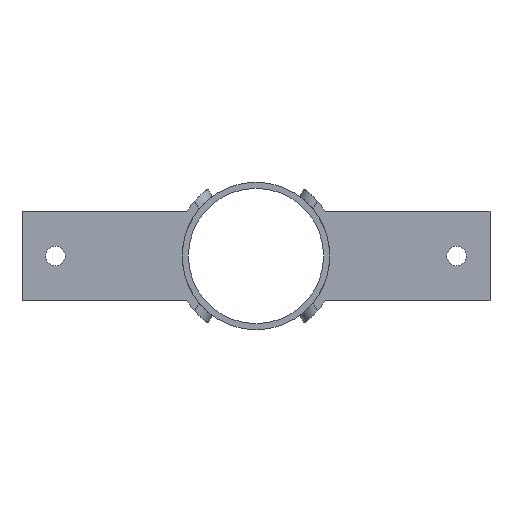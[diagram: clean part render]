
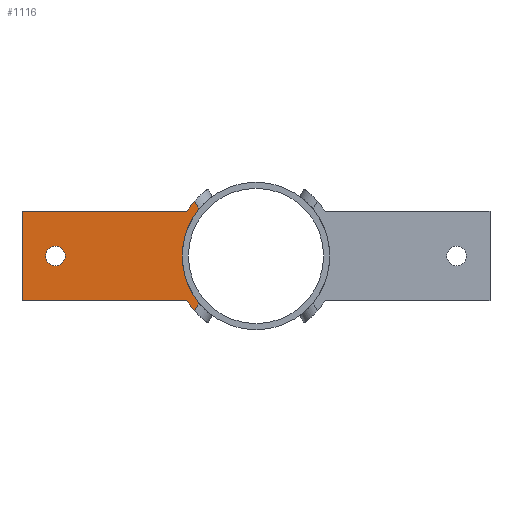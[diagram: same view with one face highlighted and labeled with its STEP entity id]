
A CAD part, front view. The second image highlights one B-rep face of the part: STEP entity #1116.
In plain terms, the highlighted planar face has unit normal (0, -1, 0).
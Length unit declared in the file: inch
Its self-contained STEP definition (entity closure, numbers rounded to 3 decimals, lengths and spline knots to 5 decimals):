
#45=FACE_BOUND('',#197,.T.);
#57=PLANE('',#1194);
#90=CIRCLE('',#1190,3.6925);
#92=CIRCLE('',#1195,3.3125);
#93=CIRCLE('',#1196,3.3125);
#94=CIRCLE('',#1197,3.6925);
#95=CIRCLE('',#1198,0.4375);
#140=FACE_OUTER_BOUND('',#196,.T.);
#196=EDGE_LOOP('',(#740,#741,#742,#743,#744,#745,#746,#747,#748));
#197=EDGE_LOOP('',(#749));
#265=LINE('',#1723,#358);
#266=LINE('',#1730,#359);
#267=LINE('',#1734,#360);
#268=LINE('',#1736,#361);
#269=LINE('',#1737,#362);
#358=VECTOR('',#1323,0.3937);
#359=VECTOR('',#1330,0.3937);
#360=VECTOR('',#1333,0.3937);
#361=VECTOR('',#1334,0.3937);
#362=VECTOR('',#1335,0.3937);
#466=VERTEX_POINT('',#1675);
#467=VERTEX_POINT('',#1694);
#470=VERTEX_POINT('',#1704);
#471=VERTEX_POINT('',#1725);
#472=VERTEX_POINT('',#1727);
#473=VERTEX_POINT('',#1729);
#474=VERTEX_POINT('',#1731);
#475=VERTEX_POINT('',#1733);
#476=VERTEX_POINT('',#1735);
#477=VERTEX_POINT('',#1738);
#573=EDGE_CURVE('',#466,#467,#90,.T.);
#579=EDGE_CURVE('',#470,#466,#265,.T.);
#580=EDGE_CURVE('',#471,#470,#92,.T.);
#581=EDGE_CURVE('',#472,#471,#93,.T.);
#582=EDGE_CURVE('',#473,#472,#266,.T.);
#583=EDGE_CURVE('',#474,#473,#94,.T.);
#584=EDGE_CURVE('',#474,#475,#267,.T.);
#585=EDGE_CURVE('',#475,#476,#268,.T.);
#586=EDGE_CURVE('',#476,#467,#269,.T.);
#587=EDGE_CURVE('',#477,#477,#95,.T.);
#740=ORIENTED_EDGE('',*,*,#579,.F.);
#741=ORIENTED_EDGE('',*,*,#580,.F.);
#742=ORIENTED_EDGE('',*,*,#581,.F.);
#743=ORIENTED_EDGE('',*,*,#582,.F.);
#744=ORIENTED_EDGE('',*,*,#583,.F.);
#745=ORIENTED_EDGE('',*,*,#584,.T.);
#746=ORIENTED_EDGE('',*,*,#585,.T.);
#747=ORIENTED_EDGE('',*,*,#586,.T.);
#748=ORIENTED_EDGE('',*,*,#573,.F.);
#749=ORIENTED_EDGE('',*,*,#587,.T.);
#1116=ADVANCED_FACE('',(#140,#45),#57,.F.);
#1190=AXIS2_PLACEMENT_3D('',#1695,#1312,#1313);
#1194=AXIS2_PLACEMENT_3D('',#1724,#1324,#1325);
#1195=AXIS2_PLACEMENT_3D('',#1726,#1326,#1327);
#1196=AXIS2_PLACEMENT_3D('',#1728,#1328,#1329);
#1197=AXIS2_PLACEMENT_3D('',#1732,#1331,#1332);
#1198=AXIS2_PLACEMENT_3D('',#1739,#1336,#1337);
#1312=DIRECTION('center_axis',(0.,1.,0.));
#1313=DIRECTION('ref_axis',(-0.583,0.,0.812));
#1323=DIRECTION('',(-0.5,0.,-0.866));
#1324=DIRECTION('center_axis',(0.,1.,0.));
#1325=DIRECTION('ref_axis',(0.,0.,1.));
#1326=DIRECTION('center_axis',(0.,-1.,0.));
#1327=DIRECTION('ref_axis',(1.,0.,0.));
#1328=DIRECTION('center_axis',(0.,-1.,0.));
#1329=DIRECTION('ref_axis',(1.,0.,0.));
#1330=DIRECTION('',(0.5,0.,-0.866));
#1331=DIRECTION('center_axis',(0.,1.,0.));
#1332=DIRECTION('ref_axis',(-0.583,0.,0.812));
#1333=DIRECTION('',(-1.,0.,0.));
#1334=DIRECTION('',(0.,0.,-1.));
#1335=DIRECTION('',(1.,0.,0.));
#1336=DIRECTION('center_axis',(0.,1.,0.));
#1337=DIRECTION('ref_axis',(-1.,0.,0.));
#1675=CARTESIAN_POINT('',(-2.76044,2.,-2.45246));
#1694=CARTESIAN_POINT('',(-3.10396,2.,-2.));
#1695=CARTESIAN_POINT('Origin',(0.,2.,0.));
#1704=CARTESIAN_POINT('',(-2.55894,2.,-2.10345));
#1723=CARTESIAN_POINT('',(-1.52105,2.,-0.30578));
#1724=CARTESIAN_POINT('Origin',(0.,2.,1.875));
#1725=CARTESIAN_POINT('',(-3.3125,2.,0.));
#1726=CARTESIAN_POINT('Origin',(0.,2.,0.));
#1727=CARTESIAN_POINT('',(-2.55894,2.,2.10345));
#1728=CARTESIAN_POINT('Origin',(0.,2.,0.));
#1729=CARTESIAN_POINT('',(-2.76044,2.,2.45246));
#1730=CARTESIAN_POINT('',(-2.23743,2.,1.54658));
#1731=CARTESIAN_POINT('',(-3.10396,2.,2.));
#1732=CARTESIAN_POINT('Origin',(0.,2.,0.));
#1733=CARTESIAN_POINT('',(-10.5,2.,2.));
#1734=CARTESIAN_POINT('',(10.5,2.,2.));
#1735=CARTESIAN_POINT('',(-10.5,2.,-2.));
#1736=CARTESIAN_POINT('',(-10.5,2.,2.));
#1737=CARTESIAN_POINT('',(-10.5,2.,-2.));
#1738=CARTESIAN_POINT('',(-8.5625,2.,0.));
#1739=CARTESIAN_POINT('Origin',(-9.,2.,0.));
